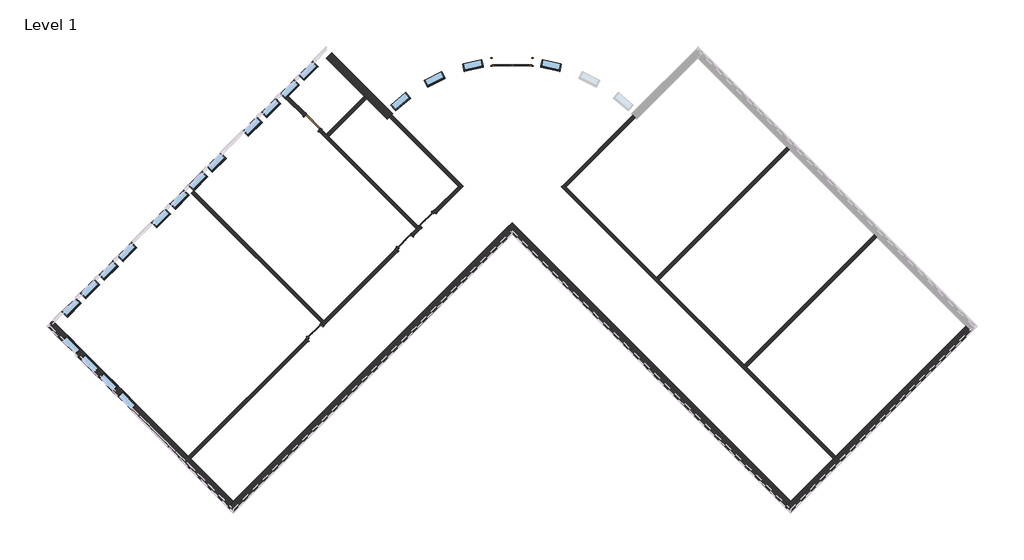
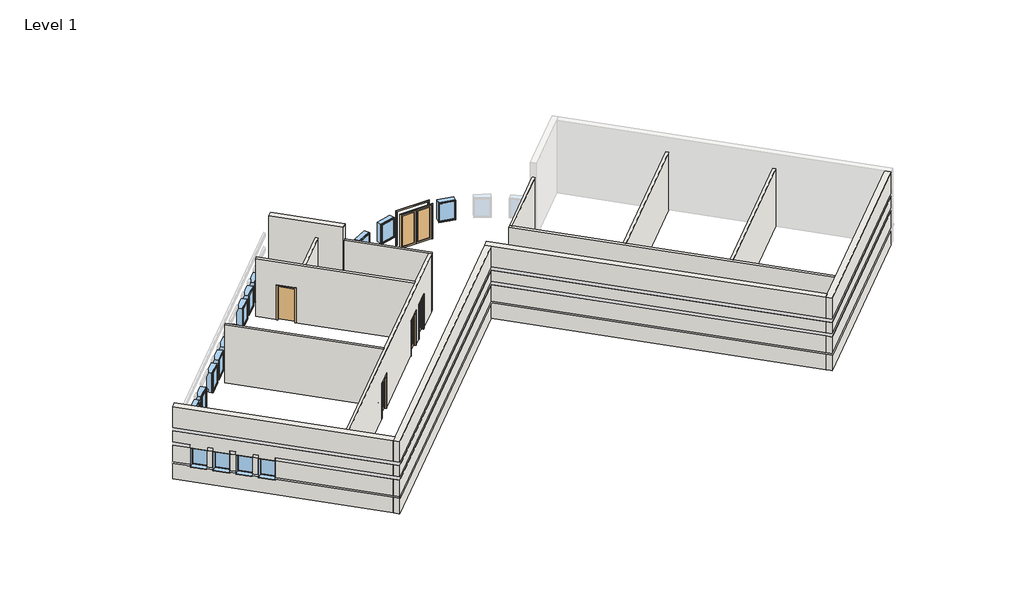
# One storey, part 1 of 2: 20 windows, 14 walls, 5 doors.
"""IFC4 building model written with IfcOpenShell, lengths in millimetres."""

from ifc_helpers import new_model, si_unit, point, frame, frame_2d, origin, origin_with_axes, place, context, project, spatial, polyline, circle_curve, trimmed, segment, composite_curve, outline, extrude, faceted_brep, transform, mapped, element, save
from ifc_brep_helpers import plane_surface, cylinder_surface, revolved_surface, advanced_brep
from components import door_9e30bd7d, door_47956b35, door_87dbb2e6, door_9d26d547, window_15c49d37, window_0e2fc6ce

model = new_model("IFC4")

# Units and contexts
model_context = context("Model", 3, world=origin())
ifc_project = project(units=[si_unit("LENGTHUNIT", "METRE", prefix="MILLI")], contexts=[model_context])

# Site, building, storey
site = spatial("IfcSite", under=ifc_project)
building = spatial("IfcBuilding", under=site)
storey = spatial("IfcBuildingStorey", under=building, Name="Level 1", Elevation=0.0)

# Doors
placement = place(None, origin())
door_shape = door_9e30bd7d(model_context)
element("IfcDoor", 1, ObjectType="Door-Double-Glass : 72\" x 84\"", at=placement, inside=storey, context=model_context, shape_type="MappedRepresentation", body=[
    mapped(door_shape, transform((-2868.7605421, 10907.9529704, 0.0), x_axis=(-0.9999999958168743, -9.146721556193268e-05, 0.0), y_axis=(9.146721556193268e-05, -0.9999999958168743, 0.0), z_axis=(0.0, 0.0, 1.0))),
])
door_2_shape = door_47956b35(model_context)
element("IfcDoor", 2, ObjectType="Door-Interior-Single-Full Glass-Wood : 36\" x 84\"", at=placement, inside=storey, context=model_context, shape_type="MappedRepresentation", body=[
    mapped(door_2_shape, transform((-12030.0168896, -1645.2399237, 0.0), x_axis=(0.7071067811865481, 0.7071067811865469, 0.0), y_axis=(-0.7071067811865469, 0.7071067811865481, 0.0), z_axis=(0.0, 0.0, 1.0))),
])
element("IfcDoor", 3, ObjectType="Door-Interior-Single-Full Glass-Wood : 36\" x 84\"", at=placement, inside=storey, context=model_context, shape_type="MappedRepresentation", body=[
    mapped(door_2_shape, transform((-7861.0507676, 2523.7261982, 0.0), x_axis=(0.7071067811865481, 0.7071067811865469, 0.0), y_axis=(-0.7071067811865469, 0.7071067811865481, 0.0), z_axis=(0.0, 0.0, 1.0))),
])
door_3_shape = door_87dbb2e6(model_context)
element("IfcDoor", 4, ObjectType="Door-Interior-Single-Full Glass-Wood : 36\" x 84\"", at=placement, inside=storey, context=model_context, shape_type="MappedRepresentation", body=[
    mapped(door_3_shape, transform((-6783.4200331, 3601.3569328, 0.0), x_axis=(-0.7071067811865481, -0.7071067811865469, 0.0), y_axis=(0.7071067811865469, -0.7071067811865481, 0.0), z_axis=(0.0, 0.0, 1.0))),
])
door_4_shape = door_9d26d547(model_context)
element("IfcDoor", 5, ObjectType="Door-Single-Panel : 36\" x 84\"", at=placement, inside=storey, context=model_context, shape_type="MappedRepresentation", body=[
    mapped(door_4_shape, transform((-12135.6526812, 8091.4849933, 0.0), x_axis=(0.7071067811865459, -0.7071067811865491, 0.0), y_axis=(0.7071067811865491, 0.7071067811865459, 0.0), z_axis=(0.0, 0.0, 1.0))),
])

# Walls
element("IfcWall", 6, ObjectType="Exterior - Split Face and CMU on Mtl. Stud", at=placement, inside=storey, context=model_context, shape_type="Brep", body=[
    faceted_brep([(18186.1821115, -1357.9895101, 0.0), (12149.2049342, -7394.9666875, 0.0), (12039.1967967, -7504.974825, 0.0), (10063.54045, -9480.6311716, 0.0), (9814.3383427, -9729.833279, 0.0), (9814.3383427, -9729.833279, 1016.0), (9879.4451996, -9664.7264221, 1016.0), (9879.4451996, -9664.7264221, 1085.85), (9814.3383427, -9729.833279, 1085.85), (9814.3383427, -9729.833279, 2133.6), (9879.4451996, -9664.7264221, 2133.6), (9879.4451996, -9664.7264221, 2336.8), (9814.3383427, -9729.833279, 2336.8), (9814.3383427, -9729.833279, 3048.0), (9879.4451996, -9664.7264221, 3048.0), (9879.4451996, -9664.7264221, 3251.2), (9814.3383427, -9729.833279, 3251.2), (9814.3383427, -9729.833279, 4572.0), (10063.54045, -9480.6311716, 4572.0), (18186.1821115, -1357.9895101, 4572.0), (18435.3842189, -1607.1916175, 4572.0), (10063.54045, -9979.0353863, 4572.0), (10063.54045, -9979.0353863, 3251.2), (18435.3842189, -1607.1916175, 3251.2), (10063.54045, -9979.0353863, 0.0), (18435.3842189, -1607.1916175, 0.0), (18435.3842189, -1607.1916175, 1016.0), (10063.54045, -9979.0353863, 1016.0), (10063.54045, -9979.0353863, 1085.85), (18435.3842189, -1607.1916175, 1085.85), (18435.3842189, -1607.1916175, 2133.6), (10063.54045, -9979.0353863, 2133.6), (10063.54045, -9979.0353863, 2336.8), (18435.3842189, -1607.1916175, 2336.8), (18435.3842189, -1607.1916175, 3048.0), (10063.54045, -9979.0353863, 3048.0), (9998.4335932, -9913.9285294, 0.0), (18370.277362, -1542.0847606, 3251.2), (18370.277362, -1542.0847606, 3048.0), (18370.277362, -1542.0847606, 2336.8), (18370.277362, -1542.0847606, 2133.6), (18370.277362, -1542.0847606, 1085.85), (18370.277362, -1542.0847606, 1016.0), (18370.277362, -1542.0847606, 0.0), (10063.54045, -9848.8216726, 1085.85), (10063.54045, -9848.8216726, 1016.0), (10063.54045, -9848.8216726, 2133.6), (10063.54045, -9848.8216726, 2336.8), (10063.54045, -9848.8216726, 3048.0), (10063.54045, -9848.8216726, 3251.2)], [[[0, 1, 2, 3, 4, 5, 6, 7, 8, 9, 10, 11, 12, 13, 14, 15, 16, 17, 18, 19]], [[20, 21, 22, 23]], [[24, 25, 26, 27]], [[28, 29, 30, 31]], [[32, 33, 34, 35]], [[19, 18, 17, 21, 20]], [[21, 17, 16, 22]], [[4, 36, 24, 27, 5]], [[8, 28, 31, 9]], [[12, 32, 35, 13]], [[0, 19, 20, 23, 37, 38, 34, 33, 39, 40, 30, 29, 41, 42, 26, 25, 43]], [[4, 3, 2, 1, 0, 43, 36]], [[43, 25, 24, 36]], [[7, 44, 41, 29, 28, 8]], [[42, 45, 6, 5, 27, 26]], [[44, 45, 42, 41]], [[45, 44, 7, 6]], [[40, 46, 10, 9, 31, 30]], [[11, 47, 39, 33, 32, 12]], [[47, 46, 40, 39]], [[46, 47, 11, 10]], [[38, 48, 14, 13, 35, 34]], [[15, 49, 37, 23, 22, 16]], [[49, 48, 38, 37]], [[48, 49, 15, 14]]]),
])
element("IfcWall", 7, ObjectType="Exterior - Split Face and CMU on Mtl. Stud", at=placement, inside=storey, context=model_context, shape_type="Brep", body=[
    faceted_brep([(10063.54045, -9480.6311716, 0.0), (-2868.0283643, 3450.9376427, 0.0), (-2868.0283643, 3450.9376427, 4572.0), (10063.54045, -9480.6311716, 4572.0), (9814.3383427, -9729.833279, 4572.0), (-2868.0283643, 2952.533428, 4572.0), (-3117.2304717, 3201.7355354, 4572.0), (-3117.2304717, 3201.7355354, 0.0), (-2868.0283643, 2952.533428, 0.0), (9814.3383427, -9729.833279, 0.0), (9814.3383427, -9729.833279, 1016.0), (-2868.0283643, 2952.533428, 1016.0), (-2933.1352212, 3017.6402849, 1016.0), (-2933.1352212, 3017.6402849, 1085.85), (-2868.0283643, 2952.533428, 1085.85), (9814.3383427, -9729.833279, 1085.85), (9814.3383427, -9729.833279, 2133.6), (-2868.0283643, 2952.533428, 2133.6), (-2933.1352212, 3017.6402849, 2133.6), (-2933.1352212, 3017.6402849, 2336.8), (-2868.0283643, 2952.533428, 2336.8), (9814.3383427, -9729.833279, 2336.8), (9814.3383427, -9729.833279, 3048.0), (-2868.0283643, 2952.533428, 3048.0), (-2933.1352212, 3017.6402849, 3048.0), (-2933.1352212, 3017.6402849, 3251.2), (-2868.0283643, 2952.533428, 3251.2), (9814.3383427, -9729.833279, 3251.2), (-3052.1236148, 3266.8423923, 0.0), (9879.4451996, -9664.7264221, 3251.2), (9879.4451996, -9664.7264221, 3048.0), (9879.4451996, -9664.7264221, 2336.8), (9879.4451996, -9664.7264221, 2133.6), (9879.4451996, -9664.7264221, 1085.85), (9879.4451996, -9664.7264221, 1016.0), (9879.4451996, -9664.7264221, 0.0), (-2868.0283643, 3082.7471418, 1085.85), (-2868.0283643, 3082.7471418, 1016.0), (-2868.0283643, 3082.7471418, 2133.6), (-2868.0283643, 3082.7471418, 2336.8), (-2868.0283643, 3082.7471418, 3048.0), (-2868.0283643, 3082.7471418, 3251.2)], [[[0, 1, 2, 3]], [[4, 5, 6, 7, 8, 9, 10, 11, 12, 13, 14, 15, 16, 17, 18, 19, 20, 21, 22, 23, 24, 25, 26, 27]], [[3, 2, 6, 5, 4]], [[2, 1, 28, 7, 6]], [[0, 3, 4, 27, 29, 30, 22, 21, 31, 32, 16, 15, 33, 34, 10, 9, 35]], [[1, 0, 35, 28]], [[35, 9, 8, 7, 28]], [[13, 36, 33, 15, 14]], [[34, 37, 12, 11, 10]], [[36, 37, 34, 33]], [[37, 36, 13, 12]], [[32, 38, 18, 17, 16]], [[19, 39, 31, 21, 20]], [[39, 38, 32, 31]], [[38, 39, 19, 18]], [[30, 40, 24, 23, 22]], [[25, 41, 29, 27, 26]], [[41, 40, 30, 29]], [[40, 41, 25, 24]]]),
])
element("IfcWall", 8, ObjectType="Exterior - Split Face and CMU on Mtl. Stud", at=placement, inside=storey, context=model_context, shape_type="Brep", body=[
    faceted_brep([(-3117.2304717, 3201.7355354, 4572.0), (-15799.5971786, -9480.6311716, 4572.0), (-16048.799286, -9729.833279, 4572.0), (-15799.5971786, -9979.0353863, 4572.0), (-2868.0283643, 2952.533428, 4572.0), (-3117.2304717, 3201.7355354, 0.0), (-15799.5971786, -9480.6311716, 0.0), (-16048.799286, -9729.833279, 0.0), (-16048.799286, -9729.833279, 1016.0), (-15983.6924291, -9664.7264221, 1016.0), (-15983.6924291, -9664.7264221, 1085.85), (-16048.799286, -9729.833279, 1085.85), (-16048.799286, -9729.833279, 2133.6), (-15983.6924291, -9664.7264221, 2133.6), (-15983.6924291, -9664.7264221, 2336.8), (-16048.799286, -9729.833279, 2336.8), (-16048.799286, -9729.833279, 3048.0), (-15983.6924291, -9664.7264221, 3048.0), (-15983.6924291, -9664.7264221, 3251.2), (-16048.799286, -9729.833279, 3251.2), (-15799.5971786, -9979.0353863, 3251.2), (-2868.0283643, 2952.533428, 3251.2), (-15799.5971786, -9979.0353863, 0.0), (-2868.0283643, 2952.533428, 0.0), (-2868.0283643, 2952.533428, 1016.0), (-15799.5971786, -9979.0353863, 1016.0), (-15799.5971786, -9979.0353863, 1085.85), (-2868.0283643, 2952.533428, 1085.85), (-2868.0283643, 2952.533428, 2133.6), (-15799.5971786, -9979.0353863, 2133.6), (-15799.5971786, -9979.0353863, 2336.8), (-2868.0283643, 2952.533428, 2336.8), (-2868.0283643, 2952.533428, 3048.0), (-15799.5971786, -9979.0353863, 3048.0), (-2933.1352212, 3017.6402849, 0.0), (-15864.7040355, -9913.9285294, 0.0), (-2933.1352212, 3017.6402849, 3251.2), (-2933.1352212, 3017.6402849, 3048.0), (-2933.1352212, 3017.6402849, 2336.8), (-2933.1352212, 3017.6402849, 2133.6), (-2933.1352212, 3017.6402849, 1085.85), (-2933.1352212, 3017.6402849, 1016.0), (-15799.5971786, -9848.8216726, 1085.85), (-15799.5971786, -9848.8216726, 1016.0), (-15799.5971786, -9848.8216726, 2133.6), (-15799.5971786, -9848.8216726, 2336.8), (-15799.5971786, -9848.8216726, 3048.0), (-15799.5971786, -9848.8216726, 3251.2)], [[[0, 1, 2, 3, 4]], [[5, 6, 7, 8, 9, 10, 11, 12, 13, 14, 15, 16, 17, 18, 19, 2, 1, 0]], [[4, 3, 20, 21]], [[22, 23, 24, 25]], [[26, 27, 28, 29]], [[30, 31, 32, 33]], [[7, 6, 5, 34, 35]], [[5, 0, 4, 21, 36, 37, 32, 31, 38, 39, 28, 27, 40, 41, 24, 23, 34]], [[23, 22, 35, 34]], [[3, 2, 19, 20]], [[7, 35, 22, 25, 8]], [[11, 26, 29, 12]], [[15, 30, 33, 16]], [[10, 42, 40, 27, 26, 11]], [[41, 43, 9, 8, 25, 24]], [[42, 43, 41, 40]], [[43, 42, 10, 9]], [[39, 44, 13, 12, 29, 28]], [[14, 45, 38, 31, 30, 15]], [[45, 44, 39, 38]], [[44, 45, 14, 13]], [[37, 46, 17, 16, 33, 32]], [[18, 47, 36, 21, 20, 19]], [[47, 46, 37, 36]], [[46, 47, 18, 17]]]),
])
element("IfcWall", 9, ObjectType="Exterior - Split Face and CMU on Mtl. Stud", at=placement, inside=storey, context=model_context, shape_type="Brep", body=[
    faceted_brep([(-15799.5971786, -9480.6311716, 4572.0), (-23922.2388402, -1357.9895101, 4572.0), (-24171.4409475, -1108.7874027, 4572.0), (-24420.6430549, -1357.9895101, 4572.0), (-16048.799286, -9729.833279, 4572.0), (-15799.5971786, -9480.6311716, 0.0), (-17775.2535253, -7504.974825, 0.0), (-17885.2616628, -7394.9666875, 0.0), (-23922.2388402, -1357.9895101, 0.0), (-24171.4409475, -1108.7874027, 0.0), (-24171.4409475, -1108.7874027, 1016.0), (-24106.3340906, -1173.8942596, 1016.0), (-24106.3340906, -1173.8942596, 1085.85), (-24171.4409475, -1108.7874027, 1085.85), (-24171.4409475, -1108.7874027, 2133.6), (-24106.3340906, -1173.8942596, 2133.6), (-24106.3340906, -1173.8942596, 2336.8), (-24171.4409475, -1108.7874027, 2336.8), (-24171.4409475, -1108.7874027, 3048.0), (-24106.3340906, -1173.8942596, 3048.0), (-24106.3340906, -1173.8942596, 3251.2), (-24171.4409475, -1108.7874027, 3251.2), (-20921.7107637, -4358.5175865, 2133.6), (-20921.7107637, -4358.5175865, 914.4), (-20275.132323, -5005.0960273, 914.4), (-20275.132323, -5005.0960273, 2133.6), (-21783.8153513, -3496.4129989, 2133.6), (-21783.8153513, -3496.4129989, 914.4), (-21137.2369106, -4142.9914396, 914.4), (-21137.2369106, -4142.9914396, 2133.6), (-22645.9199389, -2634.3084113, 2133.6), (-22645.9199389, -2634.3084113, 914.4), (-21999.3414982, -3280.886852, 914.4), (-21999.3414982, -3280.886852, 2133.6), (-23508.0245266, -1772.2038237, 2133.6), (-23508.0245266, -1772.2038237, 914.4), (-22861.4460859, -2418.7822644, 914.4), (-22861.4460859, -2418.7822644, 2133.6), (-24420.6430549, -1357.9895101, 3251.2), (-16048.799286, -9729.833279, 3251.2), (-24420.6430549, -1357.9895101, 0.0), (-16048.799286, -9729.833279, 0.0), (-16048.799286, -9729.833279, 1016.0), (-20524.3344303, -5254.2981346, 1016.0), (-20524.3344303, -5254.2981346, 914.4), (-21170.9128711, -4607.7196939, 914.4), (-21170.9128711, -4607.7196939, 1016.0), (-21386.439018, -4392.193547, 1016.0), (-21386.439018, -4392.193547, 914.4), (-22033.0174587, -3745.6151063, 914.4), (-22033.0174587, -3745.6151063, 1016.0), (-22248.5436056, -3530.0889594, 1016.0), (-22248.5436056, -3530.0889594, 914.4), (-22895.1220463, -2883.5105187, 914.4), (-22895.1220463, -2883.5105187, 1016.0), (-23110.6481932, -2667.9843718, 1016.0), (-23110.6481932, -2667.9843718, 914.4), (-23757.2266339, -2021.405931, 914.4), (-23757.2266339, -2021.405931, 1016.0), (-24420.6430549, -1357.9895101, 1016.0), (-21170.9128711, -4607.7196939, 2133.6), (-20524.3344303, -5254.2981346, 2133.6), (-20524.3344303, -5254.2981346, 2336.8), (-16048.799286, -9729.833279, 2336.8), (-16048.799286, -9729.833279, 3048.0), (-24420.6430549, -1357.9895101, 3048.0), (-24420.6430549, -1357.9895101, 2336.8), (-23757.2266339, -2021.405931, 2336.8), (-23757.2266339, -2021.405931, 2133.6), (-23110.6481932, -2667.9843718, 2133.6), (-23110.6481932, -2667.9843718, 2336.8), (-22895.1220463, -2883.5105187, 2336.8), (-22895.1220463, -2883.5105187, 2133.6), (-22248.5436056, -3530.0889594, 2133.6), (-22248.5436056, -3530.0889594, 2336.8), (-22033.0174587, -3745.6151063, 2336.8), (-22033.0174587, -3745.6151063, 2133.6), (-21386.439018, -4392.193547, 2133.6), (-21386.439018, -4392.193547, 2336.8), (-21170.9128711, -4607.7196939, 2336.8), (-20524.3344303, -5254.2981346, 1085.85), (-16048.799286, -9729.833279, 1085.85), (-16048.799286, -9729.833279, 2133.6), (-21170.9128711, -4607.7196939, 1085.85), (-21386.439018, -4392.193547, 1085.85), (-22033.0174587, -3745.6151063, 1085.85), (-22248.5436056, -3530.0889594, 1085.85), (-22895.1220463, -2883.5105187, 1085.85), (-23110.6481932, -2667.9843718, 1085.85), (-23757.2266339, -2021.405931, 1085.85), (-24420.6430549, -1357.9895101, 2133.6), (-24420.6430549, -1357.9895101, 1085.85), (-15983.6924291, -9664.7264221, 0.0), (-24355.536198, -1292.8826532, 0.0), (-15983.6924291, -9664.7264221, 3251.2), (-15983.6924291, -9664.7264221, 3048.0), (-15983.6924291, -9664.7264221, 2336.8), (-15983.6924291, -9664.7264221, 2133.6), (-15983.6924291, -9664.7264221, 1085.85), (-15983.6924291, -9664.7264221, 1016.0), (-21105.8060142, -4542.612837, 2133.6), (-21105.8060142, -4542.612837, 1085.85), (-21105.8060142, -4542.612837, 1016.0), (-20459.2275735, -5189.1912777, 1016.0), (-20459.2275735, -5189.1912777, 1085.85), (-20459.2275735, -5189.1912777, 2133.6), (-21967.9106018, -3680.5082494, 2133.6), (-21967.9106018, -3680.5082494, 1085.85), (-21967.9106018, -3680.5082494, 1016.0), (-21321.3321611, -4327.0866901, 1016.0), (-21321.3321611, -4327.0866901, 1085.85), (-21321.3321611, -4327.0866901, 2133.6), (-22830.0151894, -2818.4036618, 2133.6), (-22830.0151894, -2818.4036618, 1085.85), (-22830.0151894, -2818.4036618, 1016.0), (-22183.4367487, -3464.9821025, 1016.0), (-22183.4367487, -3464.9821025, 1085.85), (-22183.4367487, -3464.9821025, 2133.6), (-23692.119777, -1956.2990742, 2133.6), (-23692.119777, -1956.2990742, 1085.85), (-23692.119777, -1956.2990742, 1016.0), (-23045.5413363, -2602.8775149, 1016.0), (-23045.5413363, -2602.8775149, 1085.85), (-23045.5413363, -2602.8775149, 2133.6), (-24290.4293411, -1357.9895101, 1085.85), (-24290.4293411, -1357.9895101, 1016.0), (-20459.2275735, -5189.1912777, 2133.6), (-20459.2275735, -5189.1912777, 2336.8), (-21105.8060142, -4542.612837, 2133.6), (-21105.8060142, -4542.612837, 2336.8), (-21321.3321611, -4327.0866901, 2336.8), (-21321.3321611, -4327.0866901, 2133.6), (-21967.9106018, -3680.5082494, 2133.6), (-21967.9106018, -3680.5082494, 2336.8), (-22183.4367487, -3464.9821025, 2336.8), (-22183.4367487, -3464.9821025, 2133.6), (-22830.0151894, -2818.4036618, 2133.6), (-22830.0151894, -2818.4036618, 2336.8), (-23045.5413363, -2602.8775149, 2336.8), (-23045.5413363, -2602.8775149, 2133.6), (-23692.119777, -1956.2990742, 2133.6), (-23692.119777, -1956.2990742, 2336.8), (-24290.4293411, -1357.9895101, 2133.6), (-24290.4293411, -1357.9895101, 2336.8), (-24290.4293411, -1357.9895101, 3048.0), (-24290.4293411, -1357.9895101, 3251.2)], [[[0, 1, 2, 3, 4]], [[5, 6, 7, 8, 9, 10, 11, 12, 13, 14, 15, 16, 17, 18, 19, 20, 21, 2, 1, 0], [22, 23, 24, 25], [26, 27, 28, 29], [30, 31, 32, 33], [34, 35, 36, 37]], [[4, 3, 38, 39]], [[40, 41, 42, 43, 44, 45, 46, 47, 48, 49, 50, 51, 52, 53, 54, 55, 56, 57, 58, 59]], [[60, 61, 62, 63, 64, 65, 66, 67, 68, 69, 70, 71, 72, 73, 74, 75, 76, 77, 78, 79]], [[61, 80, 81, 82]], [[83, 60, 77, 84]], [[85, 76, 73, 86]], [[87, 72, 69, 88]], [[89, 68, 90, 91]], [[9, 8, 7, 6, 5, 92, 93]], [[5, 0, 4, 39, 94, 95, 64, 63, 96, 97, 82, 81, 98, 99, 42, 41, 92]], [[41, 40, 93, 92]], [[3, 2, 21, 38]], [[9, 93, 40, 59, 10]], [[13, 91, 90, 14]], [[17, 66, 65, 18]], [[23, 22, 100, 60, 83, 101, 102, 46, 45]], [[24, 23, 45, 44]], [[25, 24, 44, 43, 103, 104, 80, 61, 105]], [[22, 25, 105, 61, 60, 100]], [[27, 26, 106, 76, 85, 107, 108, 50, 49]], [[28, 27, 49, 48]], [[29, 28, 48, 47, 109, 110, 84, 77, 111]], [[26, 29, 111, 77, 76, 106]], [[31, 30, 112, 72, 87, 113, 114, 54, 53]], [[32, 31, 53, 52]], [[33, 32, 52, 51, 115, 116, 86, 73, 117]], [[30, 33, 117, 73, 72, 112]], [[35, 34, 118, 68, 89, 119, 120, 58, 57]], [[36, 35, 57, 56]], [[37, 36, 56, 55, 121, 122, 88, 69, 123]], [[34, 37, 123, 69, 68, 118]], [[104, 98, 81, 80]], [[99, 103, 43, 42]], [[98, 104, 103, 99]], [[110, 101, 83, 84]], [[102, 109, 47, 46]], [[101, 110, 109, 102]], [[116, 107, 85, 86]], [[108, 115, 51, 50]], [[107, 116, 115, 108]], [[122, 113, 87, 88]], [[114, 121, 55, 54]], [[113, 122, 121, 114]], [[124, 119, 89, 91, 13, 12]], [[120, 125, 11, 10, 59, 58]], [[119, 124, 125, 120]], [[125, 124, 12, 11]], [[126, 61, 82, 97]], [[62, 127, 96, 63]], [[61, 126, 127, 62]], [[127, 126, 97, 96]], [[128, 60, 79, 129]], [[130, 78, 77, 131]], [[60, 128, 131, 77]], [[128, 129, 130, 131]], [[129, 79, 78, 130]], [[132, 76, 75, 133]], [[134, 74, 73, 135]], [[76, 132, 135, 73]], [[132, 133, 134, 135]], [[133, 75, 74, 134]], [[136, 72, 71, 137]], [[138, 70, 69, 139]], [[72, 136, 139, 69]], [[136, 137, 138, 139]], [[137, 71, 70, 138]], [[140, 68, 67, 141]], [[68, 140, 142, 15, 14, 90]], [[140, 141, 143, 142]], [[141, 67, 66, 17, 16, 143]], [[142, 143, 16, 15]], [[95, 144, 19, 18, 65, 64]], [[20, 145, 94, 39, 38, 21]], [[145, 144, 95, 94]], [[144, 145, 20, 19]]]),
])
element("IfcWall", 10, ObjectType="Exterior - Split Face and CMU on Mtl. Stud", at=placement, inside=storey, context=model_context, shape_type="AdvancedBrep", body=[
    advanced_brep(
    [(-11489.0742405, 11075.1750895, 0.0), (-9728.9440408, 9315.0448898, 0.0), (-9618.9359033, 9205.0367523, 0.0), (-8658.0122729, 8244.1131219, 0.0), (-8658.0122729, 8244.1131219, 4572.0), (-11489.0742405, 11075.1750895, 4572.0), (-11239.8721332, 11324.3771969, 4572.0), (-8662.486224, 8746.9912878, 4572.0), (-8413.2817722, 8497.7868359, 4572.0), (-8413.2817722, 8497.7868359, 0.0), (-8662.486224, 8746.9912878, 0.0), (-11239.8721332, 11324.3771969, 0.0), (-11239.8721332, 11324.3771969, 1016.0), (-8662.486224, 8746.9912878, 1016.0), (-8597.3787742, 8681.8838379, 1016.0), (-8597.3787742, 8681.8838379, 1085.85), (-8662.486224, 8746.9912878, 1085.85), (-11239.8721332, 11324.3771969, 1085.85), (-11239.8721332, 11324.3771969, 2133.6), (-8662.486224, 8746.9912878, 2133.6), (-8597.3787742, 8681.8838379, 2133.6), (-8597.3787742, 8681.8838379, 2336.8), (-8662.486224, 8746.9912878, 2336.8), (-11239.8721332, 11324.3771969, 2336.8), (-11239.8721332, 11324.3771969, 3048.0), (-8662.486224, 8746.9912878, 3048.0), (-8597.3787742, 8681.8838379, 3048.0), (-8597.3787742, 8681.8838379, 3251.2), (-8662.486224, 8746.9912878, 3251.2), (-11239.8721332, 11324.3771969, 3251.2), (-8478.2967797, 8432.5881297, 0.0), (-11304.9789901, 11259.27034, 3251.2), (-11304.9789901, 11259.27034, 3048.0), (-11304.9789901, 11259.27034, 2336.8), (-11304.9789901, 11259.27034, 2133.6), (-11304.9789901, 11259.27034, 1085.85), (-11304.9789901, 11259.27034, 1016.0), (-11304.9789901, 11259.27034, 0.0), (-8662.3967205, 8616.6880705, 1085.85), (-8662.3967205, 8616.6880705, 1016.0), (-8662.3967205, 8616.6880705, 2336.8), (-8662.3967205, 8616.6880705, 2133.6), (-8662.3967205, 8616.6880705, 3251.2), (-8662.3967205, 8616.6880705, 3048.0)],
    [
        (0, 1),
        (1, 2),
        (2, 3),
        (3, 4),
        (4, 5),
        (5, 0),
        (6, 7),
        (7, 8),
        (8, 9),
        (9, 10),
        (10, 11),
        (11, 12),
        (12, 13),
        (13, 14),
        (14, 15),
        (15, 16),
        (16, 17),
        (17, 18),
        (18, 19),
        (19, 20),
        (20, 21),
        (21, 22),
        (22, 23),
        (23, 24),
        (24, 25),
        (25, 26),
        (26, 27),
        (27, 28),
        (28, 29),
        (29, 6),
        (4, 8, circle_curve(frame((-2868.0283643, 2903.1420194, 4572.0), z_axis=(0.0, 0.0, -1.0), x_axis=(1.0, 0.0, 0.0)), 7877.175)),
        (6, 5),
        (3, 30, circle_curve(frame((-2868.0283643, 2903.1420194, 0.0), z_axis=(0.0, 0.0, -1.0), x_axis=(1.0, 0.0, 0.0)), 7877.175)),
        (30, 9, circle_curve(frame((-2868.0283643, 2903.1420194, 0.0), z_axis=(0.0, 0.0, -1.0), x_axis=(1.0, 0.0, 0.0)), 7877.175)),
        (29, 31),
        (31, 32),
        (32, 24),
        (23, 33),
        (33, 34),
        (34, 18),
        (17, 35),
        (35, 36),
        (36, 12),
        (11, 37),
        (37, 0),
        (37, 30),
        (38, 39),
        (39, 36),
        (35, 38),
        (15, 38, circle_curve(frame((-2868.0283643, 2903.1420194, 1085.85), z_axis=(0.0, 0.0, 1.0), x_axis=(-0.7040995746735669, 0.7101012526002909, 0.0)), 8137.525)),
        (39, 14, circle_curve(frame((-2868.0283643, 2903.1420194, 1016.0), z_axis=(0.0, 0.0, -1.0), x_axis=(-0.7040995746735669, 0.7101012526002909, 0.0)), 8137.525)),
        (40, 41),
        (41, 34),
        (33, 40),
        (41, 20, circle_curve(frame((-2868.0283643, 2903.1420194, 2133.6), z_axis=(0.0, 0.0, -1.0), x_axis=(-0.7120553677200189, 0.7021233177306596, 0.0)), 8137.525)),
        (40, 21, circle_curve(frame((-2868.0283643, 2903.1420194, 2336.8), z_axis=(0.0, 0.0, -1.0), x_axis=(-0.7120553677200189, 0.7021233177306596, 0.0)), 8137.525)),
        (42, 43),
        (43, 32),
        (31, 42),
        (43, 26, circle_curve(frame((-2868.0283643, 2903.1420194, 3048.0), z_axis=(0.0, 0.0, -1.0), x_axis=(-0.7120553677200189, 0.7021233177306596, 0.0)), 8137.525)),
        (42, 27, circle_curve(frame((-2868.0283643, 2903.1420194, 3251.2), z_axis=(0.0, 0.0, -1.0), x_axis=(-0.7120553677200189, 0.7021233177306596, 0.0)), 8137.525)),
    ],
    [
        plane_surface(frame((-11738.2763479, 11324.3771969, 0.0), z_axis=(-0.7071067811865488, -0.7071067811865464, 0.0), x_axis=(0.7071067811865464, -0.7071067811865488, 0.0))),
        plane_surface(frame((-11489.0742405, 11573.5793042, 0.0), z_axis=(0.7071067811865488, 0.7071067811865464, 0.0), x_axis=(-0.7071067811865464, 0.7071067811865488, 0.0))),
        plane_surface(frame((-8786.2632499, 8372.3640989, 4572.0), z_axis=(0.0, 0.0, 1.0), x_axis=(0.7071067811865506, 0.7071067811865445, 0.0))),
        revolved_surface(polyline([(5009.146635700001, 2903.1420194, 0.0), (5009.146635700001, 2903.1420194, 4572.0)]), (-2868.0283643, 2903.1420194, 0.0), (0.0, 0.0, -1.0)),
        plane_surface(frame((-24171.4409475, -1607.1916175, 0.0), z_axis=(-0.7071067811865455, 0.7071067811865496, 0.0), x_axis=(0.7071067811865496, 0.7071067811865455, 0.0))),
        plane_surface(frame((-11613.6752942, 11199.7761432, 0.0), z_axis=(0.0, 0.0, -1.0000000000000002), x_axis=(0.7071067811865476, 0.7071067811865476, 0.0))),
        plane_surface(frame((0.0, 0.0, 0.0), z_axis=(0.0, 0.0, -1.0), x_axis=(1.0, 0.0, 0.0))),
        plane_surface(frame((-11489.0742405, 11443.3655905, 1016.0), z_axis=(0.7071067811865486, 0.7071067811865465, 0.0), x_axis=(0.7071067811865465, -0.7071067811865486, 0.0))),
        plane_surface(frame((-2868.0283643, 2903.1420194, 1085.85), z_axis=(0.0, 0.0, -1.0), x_axis=(-0.7040995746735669, 0.7101012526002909, 0.0))),
        plane_surface(frame((-2868.0283643, 2903.1420194, 1016.0), z_axis=(0.0, 0.0, 1.0), x_axis=(-0.7040995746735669, 0.7101012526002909, 0.0))),
        cylinder_surface(frame((-2868.0283643, 2903.1420194, 1016.0), z_axis=(0.0, 0.0, -1.0), x_axis=(-0.7040995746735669, 0.7101012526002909, 0.0)), 8137.525),
        plane_surface(frame((-11489.0742405, 11443.3655905, 2133.6), z_axis=(0.7071067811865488, 0.7071067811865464, 0.0), x_axis=(0.7071067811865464, -0.7071067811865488, 0.0))),
        plane_surface(frame((-2868.0283643, 2903.1420194, 2133.6), z_axis=(0.0, 0.0, 1.0), x_axis=(-0.7120553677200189, 0.7021233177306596, 0.0))),
        cylinder_surface(frame((-2868.0283643, 2903.1420194, 2133.6), z_axis=(0.0, 0.0, -1.0), x_axis=(-0.7120553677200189, 0.7021233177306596, 0.0)), 8137.525),
        plane_surface(frame((-2868.0283643, 2903.1420194, 2336.8), z_axis=(0.0, 0.0, -1.0), x_axis=(-0.7120553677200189, 0.7021233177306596, 0.0))),
        plane_surface(frame((-11489.0742405, 11443.3655905, 3048.0), z_axis=(0.7071067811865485, 0.7071067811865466, 0.0), x_axis=(0.7071067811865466, -0.7071067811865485, 0.0))),
        plane_surface(frame((-2868.0283643, 2903.1420194, 3048.0), z_axis=(0.0, 0.0, 1.0), x_axis=(-0.7120553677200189, 0.7021233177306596, 0.0))),
        cylinder_surface(frame((-2868.0283643, 2903.1420194, 3048.0), z_axis=(0.0, 0.0, -1.0), x_axis=(-0.7120553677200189, 0.7021233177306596, 0.0)), 8137.525),
        plane_surface(frame((-2868.0283643, 2903.1420194, 3251.2), z_axis=(0.0, 0.0, -1.0), x_axis=(-0.7120553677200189, 0.7021233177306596, 0.0))),
    ],
    [
        (0, [[1, 2, 3, 4, 5, 6]]),
        (1, [[7, 8, 9, 10, 11, 12, 13, 14, 15, 16, 17, 18, 19, 20, 21, 22, 23, 24, 25, 26, 27, 28, 29, 30]]),
        (2, [[-5, 31, -8, -7, 32]]),
        (3, [[-4, 33, 34, -9, -31]]),
        (4, [[-6, -32, -30, 35, 36, 37, -24, 38, 39, 40, -18, 41, 42, 43, -12, 44, 45]]),
        (5, [[-3, -2, -1, -45, 46, -33]]),
        (6, [[-44, -11, -10, -34, -46]]),
        (7, [[47, 48, -42, 49]]),
        (8, [[50, -49, -41, -17, -16]]),
        (9, [[-48, 51, -14, -13, -43]]),
        (10, [[-47, -50, -15, -51]]),
        (11, [[52, 53, -39, 54]]),
        (12, [[-53, 55, -20, -19, -40]]),
        (13, [[-52, 56, -21, -55]]),
        (14, [[-56, -54, -38, -23, -22]]),
        (15, [[57, 58, -36, 59]]),
        (16, [[-58, 60, -26, -25, -37]]),
        (17, [[-57, 61, -27, -60]]),
        (18, [[-61, -59, -35, -29, -28]]),
    ],
),
])
element("IfcWall", 11, ObjectType="Interior - 6 1/8\" Partition (2-hr)", at=placement, inside=storey, context=model_context, shape_type="Brep", body=[
    faceted_brep([(-17775.2535253, -7504.974825, 0.0), (-17885.2616628, -7394.9666875, 0.0), (-12424.0256269, -1933.7306516, 0.0), (-12314.0174894, -2043.7387891, 0.0), (-5348.5885532, 5141.7064221, 0.0), (-5238.5804157, 5031.6982846, 0.0), (-6384.9211677, 3885.3575326, 0.0), (-6494.9293052, 3995.3656701, 0.0), (-11631.5180242, -1361.2393239, 0.0), (-11741.5261617, -1251.2311864, 0.0), (-11706.7276692, -1216.4326939, 0.0), (-11596.7195317, -1106.4245564, 0.0), (-8255.0595049, 2235.2354703, 0.0), (-8145.0513674, 2125.2273329, 0.0), (-7462.5519022, 2807.7267981, 0.0), (-7572.5600397, 2917.7349356, 0.0), (-7322.2354004, 3168.0595749, 0.0), (-7212.2272629, 3278.0677124, 0.0), (-7177.4287704, 3312.8662049, 0.0), (-7067.4206329, 3202.8580674, 0.0), (-17775.2535253, -7504.974825, 3657.6), (-5238.5804157, 5031.6982846, 3657.6), (-5348.5885532, 5141.7064221, 3657.6), (-7212.2272629, 3278.0677124, 3657.6), (-7322.2354004, 3168.0595749, 3657.6), (-11596.7195317, -1106.4245564, 3657.6), (-11706.7276692, -1216.4326939, 3657.6), (-17885.2616628, -7394.9666875, 3657.6), (-12314.0174894, -2043.7387891, 2159.0), (-11631.5180242, -1361.2393239, 2159.0), (-8145.0513674, 2125.2273329, 2159.0), (-7462.5519022, 2807.7267981, 2159.0), (-7067.4206329, 3202.8580674, 2159.0), (-6384.9211677, 3885.3575326, 2159.0), (-6494.9293052, 3995.3656701, 2159.0), (-7177.4287704, 3312.8662049, 2159.0), (-7572.5600397, 2917.7349356, 2159.0), (-8255.0595049, 2235.2354703, 2159.0), (-11741.5261617, -1251.2311864, 2159.0), (-12424.0256269, -1933.7306516, 2159.0)], [[[0, 1, 2, 3]], [[4, 5, 6, 7]], [[8, 9, 10, 11, 12, 13]], [[14, 15, 16, 17, 18, 19]], [[20, 21, 22, 23, 24, 25, 26, 27]], [[21, 20, 0, 3, 28, 29, 8, 13, 30, 31, 14, 19, 32, 33, 6, 5]], [[27, 26, 25, 24, 23, 22, 4, 7, 34, 35, 18, 17, 16, 15, 36, 37, 12, 11, 10, 9, 38, 39, 2, 1]], [[0, 20, 27, 1]], [[21, 5, 4, 22]], [[29, 38, 9, 8]], [[38, 29, 28, 39]], [[39, 28, 3, 2]], [[31, 36, 15, 14]], [[36, 31, 30, 37]], [[37, 30, 13, 12]], [[35, 32, 19, 18]], [[32, 35, 34, 33]], [[33, 34, 7, 6]]]),
])
element("IfcWall", 12, ObjectType="Interior - 6 1/8\" Partition (2-hr)", at=placement, inside=storey, context=model_context, shape_type="Brep", body=[
    faceted_brep([(-7322.2354004, 3168.0595749, 0.0), (-11867.3675296, 7713.1917042, 0.0), (-11757.3593921, 7823.1998417, 0.0), (-11489.0742405, 7554.9146901, 0.0), (-11379.066103, 7444.9065526, 0.0), (-7212.2272629, 3278.0677124, 0.0), (-12513.9459703, 8359.7701449, 0.0), (-13359.2125777, 9205.0367523, 0.0), (-13249.2044403, 9315.0448898, 0.0), (-12403.9378329, 8469.7782824, 0.0), (-7212.2272629, 3278.0677124, 3657.6), (-11379.066103, 7444.9065526, 3657.6), (-11489.0742405, 7554.9146901, 3657.6), (-13249.2044403, 9315.0448898, 3657.6), (-13359.2125777, 9205.0367523, 3657.6), (-7322.2354004, 3168.0595749, 3657.6), (-11757.3593921, 7823.1998417, 2133.6), (-12403.9378329, 8469.7782824, 2133.6), (-11867.3675296, 7713.1917042, 2133.6), (-12513.9459703, 8359.7701449, 2133.6)], [[[0, 1, 2, 3, 4, 5]], [[6, 7, 8, 9]], [[10, 11, 12, 13, 14, 15]], [[5, 4, 3, 2, 16, 17, 9, 8, 13, 12, 11, 10]], [[18, 1, 0, 15, 14, 7, 6, 19]], [[13, 8, 7, 14]], [[5, 10, 15, 0]], [[16, 2, 1, 18]], [[17, 16, 18, 19]], [[9, 17, 19, 6]]]),
])
element("IfcWall", 13, ObjectType="Interior - 6 1/8\" Partition (2-hr)", at=placement, inside=storey, context=model_context, shape_type="AdvancedBrep", body=[
    advanced_brep(
    [(-5128.5722782, 5141.7064221, 0.0), (-8449.0111375, 8462.1452813, 0.0), (-8449.0111375, 8462.1452813, 3657.6), (-5128.5722782, 5141.7064221, 3657.6), (-5238.5804157, 5031.6982846, 0.0), (-5238.5804157, 5031.6982846, 3657.6), (-5348.5885532, 5141.7064221, 3657.6), (-8557.7157352, 8350.8336041, 3657.6), (-8557.7157352, 8350.8336041, 0.0), (-5348.5885532, 5141.7064221, 0.0)],
    [
        (0, 1),
        (1, 2),
        (2, 3),
        (3, 0),
        (4, 5),
        (5, 6),
        (6, 7),
        (7, 8),
        (8, 9),
        (9, 4),
        (0, 4),
        (8, 1, circle_curve(frame((-2868.0283643, 2903.1420194, 0.0), z_axis=(0.0, 0.0, -1.0), x_axis=(1.0, 0.0, 0.0)), 7877.175)),
        (2, 7, circle_curve(frame((-2868.0283643, 2903.1420194, 3657.6), z_axis=(0.0, 0.0, 1.0), x_axis=(1.0, 0.0, 0.0)), 7877.175)),
        (5, 3),
    ],
    [
        plane_surface(frame((-5183.576347, 5196.7104908, 0.0), z_axis=(0.7071067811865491, 0.7071067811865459, 0.0), x_axis=(-0.7071067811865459, 0.7071067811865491, 0.0))),
        plane_surface(frame((-5293.5844845, 5086.7023533, 0.0), z_axis=(-0.7071067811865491, -0.7071067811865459, 0.0), x_axis=(0.7071067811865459, -0.7071067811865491, 0.0))),
        plane_surface(frame((-5183.576347, 5196.7104908, 0.0), z_axis=(0.0, 0.0, -1.0), x_axis=(-0.707106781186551, -0.7071067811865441, 0.0))),
        plane_surface(frame((-8573.2406241, 8586.374768, 3657.6), z_axis=(0.0, 0.0, 1.0), x_axis=(-0.707106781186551, -0.7071067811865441, 0.0))),
        plane_surface(frame((-17899.854579, -7629.5758786, 0.0), z_axis=(0.7071067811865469, -0.7071067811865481, 0.0), x_axis=(0.7071067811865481, 0.7071067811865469, 0.0))),
        cylinder_surface(frame((-2868.0283643, 2903.1420194, 0.0), z_axis=(0.0, 0.0, -1.0), x_axis=(1.0, 0.0, 0.0)), 7877.175),
    ],
    [
        (0, [[1, 2, 3, 4]]),
        (1, [[5, 6, 7, 8, 9, 10]]),
        (2, [[-1, 11, -10, -9, 12]]),
        (3, [[-3, 13, -7, -6, 14]]),
        (4, [[-4, -14, -5, -11]]),
        (5, [[-2, -12, -8, -13]]),
    ],
),
])
element("IfcWall", 14, ObjectType="Interior - 6 1/8\" Partition (2-hr)", at=placement, inside=storey, context=model_context, shape_type="SweptSolid", body=[
    extrude(outline(polyline([(-11489.0742405, 7554.9146901), (-9728.9440408, 9315.0448898), (-9618.9359033, 9205.0367523), (-11379.066103, 7444.9065526), (-11489.0742405, 7554.9146901)])), origin_with_axes(), (0.0, 0.0, 1.0), 3657.6),
])
element("IfcWall", 15, ObjectType="Interior - 6 1/8\" Partition (2-hr)", at=placement, inside=storey, context=model_context, shape_type="SweptSolid", body=[
    extrude(outline(polyline([(-17633.6967091, 4930.552621), (-11596.7195317, -1106.4245564), (-11706.7276692, -1216.4326939), (-17743.7048466, 4820.5444835), (-17633.6967091, 4930.552621)])), origin_with_axes(), (0.0, 0.0, 1.0), 3657.6),
])
element("IfcWall", 16, ObjectType="Interior - 6 1/8\" Partition (2-hr)", at=placement, inside=storey, context=model_context, shape_type="Brep", body=[
    faceted_brep([(12149.2049342, -7394.9666875, 0.0), (8018.2871185, -3264.0488718, 0.0), (7908.278981, -3154.0407343, 0.0), (3956.9662877, 797.271959, 0.0), (3846.9581502, 907.2800964, 0.0), (-353.5566504, 5107.7948971, 0.0), (-463.5647879, 5217.8030346, 0.0), (-463.5647879, 5217.8030346, 3657.6), (-353.5566504, 5107.7948971, 3657.6), (3846.9581502, 907.2800964, 3657.6), (3956.9662877, 797.271959, 3657.6), (7908.278981, -3154.0407343, 3657.6), (8018.2871185, -3264.0488718, 3657.6), (12149.2049342, -7394.9666875, 3657.6), (12039.1967967, -7504.974825, 0.0), (12039.1967967, -7504.974825, 3657.6), (-573.5729254, 5107.7948971, 3657.6), (-573.5729254, 5107.7948971, 0.0)], [[[0, 1, 2, 3, 4, 5, 6, 7, 8, 9, 10, 11, 12, 13]], [[14, 15, 16, 17]], [[6, 5, 4, 3, 2, 1, 0, 14, 17]], [[13, 12, 11, 10, 9, 8, 7, 16, 15]], [[7, 6, 17, 16]], [[0, 13, 15, 14]]]),
])
element("IfcWall", 17, ObjectType="Interior - 6 1/8\" Partition (2-hr)", at=placement, inside=storey, context=model_context, shape_type="SweptSolid", body=[
    extrude(outline(polyline([(3846.9581502, 907.2800964), (9883.9353276, 6944.2572738), (9993.9434651, 6834.2491364), (3956.9662877, 797.271959), (3846.9581502, 907.2800964)])), origin_with_axes(), (0.0, 0.0, 1.0), 3657.6),
])
element("IfcWall", 18, ObjectType="Interior - 6 1/8\" Partition (2-hr)", at=placement, inside=storey, context=model_context, shape_type="SweptSolid", body=[
    extrude(outline(polyline([(7908.278981, -3154.0407343), (13945.2561584, 2882.9364431), (14055.2642958, 2772.9283056), (8018.2871185, -3264.0488718), (7908.278981, -3154.0407343)])), origin_with_axes(), (0.0, 0.0, 1.0), 3657.6),
])
element("IfcWall", 19, ObjectType="Interior - 6 1/8\" Partition (2-hr)", at=placement, inside=storey, context=model_context, shape_type="SweptSolid", body=[
    extrude(outline(composite_curve([segment(polyline([(-463.5647879, 5217.8030346), (2746.6957919, 8428.0636143)]), True, "CONTINUOUS"), segment(trimmed(circle_curve(frame_2d((-2868.0283643, 2903.1420194)), 7877.175), [point((2746.6957919, 8428.0636143))], [point((2854.7303749, 8316.0819224))], False, "CARTESIAN"), True, "CONTINUOUS"), segment(polyline([(2854.7303749, 8316.0819224), (-353.5566504, 5107.7948971), (-463.5647879, 5217.8030346)]), True, "CONTINUOUS")], self_intersect=False)), origin_with_axes(), (0.0, 0.0, 1.0), 3657.6),
])

# Windows
window_shape = window_15c49d37(model_context)
element("IfcWindow", 20, ObjectType="Fixed : 36\" x 48\"", at=placement, inside=storey, context=model_context, shape_type="MappedRepresentation", body=[
    mapped(window_shape, transform((-23336.2771283, -522.8256908, 0.0), x_axis=(-0.7071067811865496, -0.7071067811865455, 0.0), y_axis=(0.7071067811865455, -0.7071067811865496, 0.0), z_axis=(0.0, 0.0, 1.0))),
])
element("IfcWindow", 21, ObjectType="Fixed : 36\" x 48\"", at=placement, inside=storey, context=model_context, shape_type="MappedRepresentation", body=[
    mapped(window_shape, transform((-8066.2237793, 9037.6928325, 0.0), x_axis=(-0.7659856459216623, -0.6428576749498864, 0.0), y_axis=(0.6428576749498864, -0.7659856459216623, 0.0), z_axis=(0.0, 0.0, 1.0))),
])
element("IfcWindow", 22, ObjectType="Fixed : 36\" x 48\"", at=placement, inside=storey, context=model_context, shape_type="MappedRepresentation", body=[
    mapped(window_shape, transform((-22474.1725406, 339.2788968, 0.0), x_axis=(-0.7071067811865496, -0.7071067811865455, 0.0), y_axis=(0.7071067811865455, -0.7071067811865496, 0.0), z_axis=(0.0, 0.0, 1.0))),
])
element("IfcWindow", 23, ObjectType="Fixed : 36\" x 48\"", at=placement, inside=storey, context=model_context, shape_type="MappedRepresentation", body=[
    mapped(window_shape, transform((-21612.067953, 1201.3834844, 0.0), x_axis=(-0.7071067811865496, -0.7071067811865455, 0.0), y_axis=(0.7071067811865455, -0.7071067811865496, 0.0), z_axis=(0.0, 0.0, 1.0))),
])
element("IfcWindow", 24, ObjectType="Fixed : 36\" x 48\"", at=placement, inside=storey, context=model_context, shape_type="MappedRepresentation", body=[
    mapped(window_shape, transform((-20749.9633654, 2063.488072, 0.0), x_axis=(-0.7071067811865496, -0.7071067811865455, 0.0), y_axis=(0.7071067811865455, -0.7071067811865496, 0.0), z_axis=(0.0, 0.0, 1.0))),
])
element("IfcWindow", 25, ObjectType="Fixed : 36\" x 48\"", at=placement, inside=storey, context=model_context, shape_type="MappedRepresentation", body=[
    mapped(window_shape, transform((-4714.6266038, 10728.998151, 0.0), x_axis=(-0.9743494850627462, -0.22504017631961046, 0.0), y_axis=(0.22504017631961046, -0.9743494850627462, 0.0), z_axis=(0.0, 0.0, 1.0))),
])
element("IfcWindow", 26, ObjectType="Fixed : 36\" x 48\"", at=placement, inside=storey, context=model_context, shape_type="MappedRepresentation", body=[
    mapped(window_shape, transform((-6490.5147795, 10081.6893252, 0.0), x_axis=(-0.8948935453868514, -0.44627966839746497, 0.0), y_axis=(0.44627966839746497, -0.8948935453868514, 0.0), z_axis=(0.0, 0.0, 1.0))),
])
element("IfcWindow", 27, ObjectType="Fixed : 36\" x 48\"", at=placement, inside=storey, context=model_context, shape_type="MappedRepresentation", body=[
    mapped(window_shape, transform((-19188.4035501, 3625.0478874, 0.0), x_axis=(-0.7071067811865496, -0.7071067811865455, 0.0), y_axis=(0.7071067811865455, -0.7071067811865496, 0.0), z_axis=(0.0, 0.0, 1.0))),
])
element("IfcWindow", 28, ObjectType="Fixed : 36\" x 48\"", at=placement, inside=storey, context=model_context, shape_type="MappedRepresentation", body=[
    mapped(window_shape, transform((-18326.2989624, 4487.152475, 0.0), x_axis=(-0.7071067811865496, -0.7071067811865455, 0.0), y_axis=(0.7071067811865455, -0.7071067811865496, 0.0), z_axis=(0.0, 0.0, 1.0))),
])
element("IfcWindow", 29, ObjectType="Fixed : 36\" x 48\"", at=placement, inside=storey, context=model_context, shape_type="MappedRepresentation", body=[
    mapped(window_shape, transform((-17464.1943748, 5349.2570626, 0.0), x_axis=(-0.7071067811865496, -0.7071067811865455, 0.0), y_axis=(0.7071067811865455, -0.7071067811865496, 0.0), z_axis=(0.0, 0.0, 1.0))),
])
element("IfcWindow", 30, ObjectType="Fixed : 36\" x 48\"", at=placement, inside=storey, context=model_context, shape_type="MappedRepresentation", body=[
    mapped(window_shape, transform((-16602.0897872, 6211.3616502, 0.0), x_axis=(-0.7071067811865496, -0.7071067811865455, 0.0), y_axis=(0.7071067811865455, -0.7071067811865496, 0.0), z_axis=(0.0, 0.0, 1.0))),
])
window_2_shape = window_0e2fc6ce(model_context)
element("IfcWindow", 31, ObjectType="Fixed : 36\" x 48\"", at=placement, inside=storey, context=model_context, shape_type="MappedRepresentation", body=[
    mapped(window_2_shape, transform((-12290.3265348, 10523.1249026, 0.0), x_axis=(0.7071067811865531, 0.7071067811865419, 0.0), y_axis=(-0.7071067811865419, 0.7071067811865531, 0.0), z_axis=(0.0, 0.0, 1.0))),
])
element("IfcWindow", 32, ObjectType="Fixed : 36\" x 48\"", at=placement, inside=storey, context=model_context, shape_type="MappedRepresentation", body=[
    mapped(window_2_shape, transform((-13152.4311224, 9661.020315, 0.0), x_axis=(0.7071067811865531, 0.7071067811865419, 0.0), y_axis=(-0.7071067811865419, 0.7071067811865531, 0.0), z_axis=(0.0, 0.0, 1.0))),
])
element("IfcWindow", 33, ObjectType="Fixed : 36\" x 48\"", at=placement, inside=storey, context=model_context, shape_type="MappedRepresentation", body=[
    mapped(window_2_shape, transform((-14014.53571, 8798.9157274, 0.0), x_axis=(0.7071067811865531, 0.7071067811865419, 0.0), y_axis=(-0.7071067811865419, 0.7071067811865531, 0.0), z_axis=(0.0, 0.0, 1.0))),
])
element("IfcWindow", 34, ObjectType="Fixed : 36\" x 48\"", at=placement, inside=storey, context=model_context, shape_type="MappedRepresentation", body=[
    mapped(window_2_shape, transform((-14876.6402977, 7936.8111398, 0.0), x_axis=(0.7071067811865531, 0.7071067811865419, 0.0), y_axis=(-0.7071067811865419, 0.7071067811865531, 0.0), z_axis=(0.0, 0.0, 1.0))),
])
element("IfcWindow", 35, ObjectType="Fixed : 36\" x 48\"", at=placement, inside=storey, context=model_context, shape_type="MappedRepresentation", body=[
    mapped(window_2_shape, transform((-23336.2771283, -2193.1533294, 0.0), x_axis=(-0.707106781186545, 0.70710678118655, 0.0), y_axis=(-0.70710678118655, -0.707106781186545, 0.0), z_axis=(0.0, 0.0, 1.0))),
])
element("IfcWindow", 36, ObjectType="Fixed : 36\" x 48\"", at=placement, inside=storey, context=model_context, shape_type="MappedRepresentation", body=[
    mapped(window_2_shape, transform((-22474.1725406, -3055.257917, 0.0), x_axis=(-0.707106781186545, 0.70710678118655, 0.0), y_axis=(-0.70710678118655, -0.707106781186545, 0.0), z_axis=(0.0, 0.0, 1.0))),
])
element("IfcWindow", 37, ObjectType="Fixed : 36\" x 48\"", at=placement, inside=storey, context=model_context, shape_type="MappedRepresentation", body=[
    mapped(window_2_shape, transform((-21612.067953, -3917.3625046, 0.0), x_axis=(-0.707106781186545, 0.70710678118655, 0.0), y_axis=(-0.70710678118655, -0.707106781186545, 0.0), z_axis=(0.0, 0.0, 1.0))),
])
element("IfcWindow", 38, ObjectType="Fixed : 36\" x 48\"", at=placement, inside=storey, context=model_context, shape_type="MappedRepresentation", body=[
    mapped(window_2_shape, transform((-20749.9633654, -4779.4670922, 0.0), x_axis=(-0.707106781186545, 0.70710678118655, 0.0), y_axis=(-0.70710678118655, -0.707106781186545, 0.0), z_axis=(0.0, 0.0, 1.0))),
])
element("IfcWindow", 39, ObjectType="Fixed : 36\" x 48\"", at=placement, inside=storey, context=model_context, shape_type="MappedRepresentation", body=[
    mapped(window_2_shape, transform((-1021.4301249, 10728.998151, 0.0), x_axis=(0.9743494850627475, -0.22504017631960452, 0.0), y_axis=(0.22504017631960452, 0.9743494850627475, 0.0), z_axis=(0.0, 0.0, 1.0))),
])

save(model, "model.ifc")
